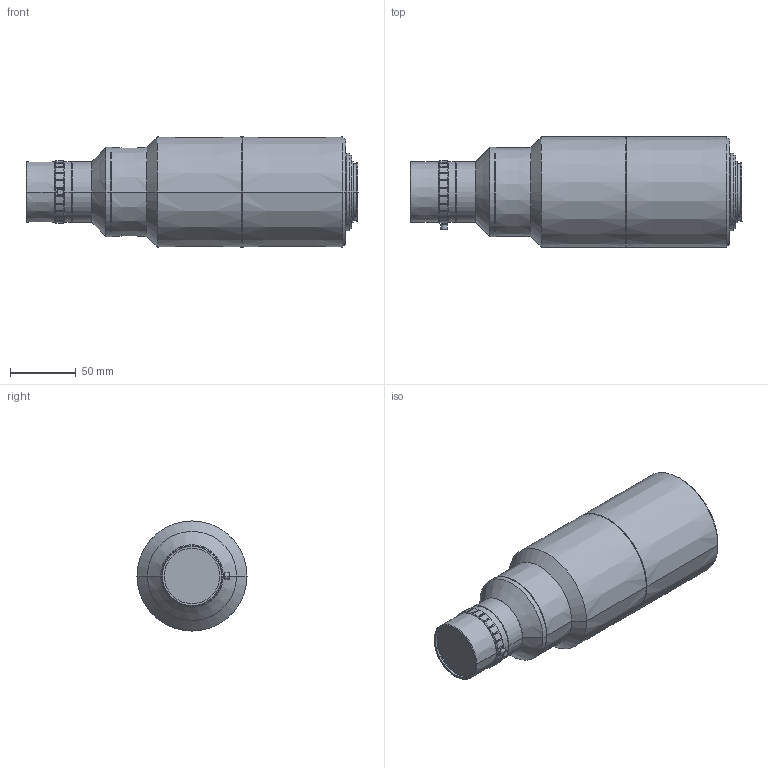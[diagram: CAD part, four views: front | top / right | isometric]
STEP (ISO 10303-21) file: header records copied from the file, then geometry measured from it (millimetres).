
FILE_DESCRIPTION (( 'STEP AP203' ), '1' );
FILE_NAME ('VS-LTC3.3-45_FS.STEP', '2014-09-22T06:49:38', ( 'miura_vst' ), ( '' ), 'SwSTEP 2.0', 'SolidWorks 2014', '' );
FILE_SCHEMA (( 'CONFIG_CONTROL_DESIGN' ));
Length unit declared in the file: millimetre
Products named in the file (1): VS-LTC3.3-45_FS
Bounding box: 253.26 x 84 x 84 mm (x, y, z)
Volume: 1059930.4 mm3; surface area: 70488.1 mm2
Topology: 1 solids, 1 shells, 217 faces, 533 edges, 335 vertices
Faces by surface type: plane 92, cone 64, cylinder 61
Entity records: 6650 total; most frequent: CARTESIAN_POINT 1680, ORIENTED_EDGE 1062, DIRECTION 965, EDGE_CURVE 531, AXIS2_PLACEMENT_3D 406, VERTEX_POINT 335, EDGE_LOOP 236, FACE_OUTER_BOUND 217
